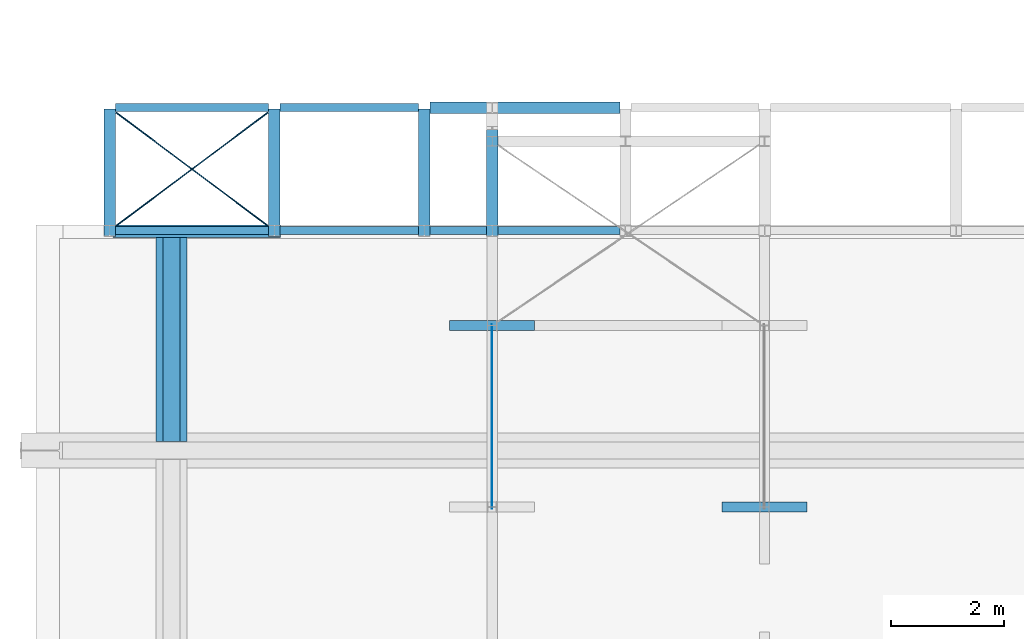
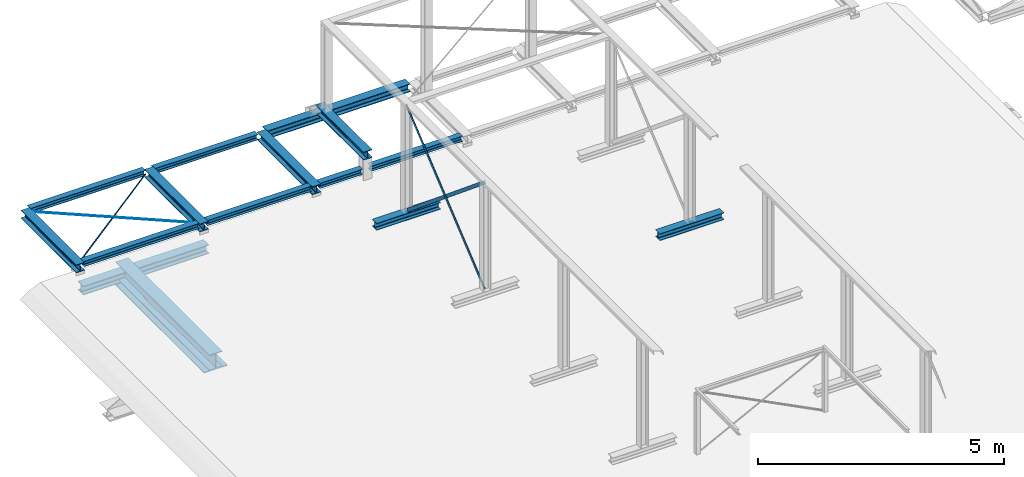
# One storey, part 19 of 50: 19 beams.
"""IFC2X3 building model written with IfcOpenShell, lengths in millimetres."""

from ifc_helpers import new_model, entity, si_unit, converted_unit, derived_unit, direction, frame, frame_2d, origin, origin_2d_with_axis, place, context, subcontext, project, spatial, polyline, circle_curve, parameter, trimmed, segment, composite_curve, rectangle, circle, i_section, outline, extrude, clip, halfspace, source, transform, mapped, material, material_list, type_object, type_shapes, element, save


model = new_model("IFC2X3")

# Units and contexts
model_context = context("Model", 3, precision=0.01, world=origin(), true_north=direction((6.12303176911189e-17, 1.0)))
body_context = subcontext(model_context, "Body", "Model", "MODEL_VIEW")
ifc_project = project(units=[si_unit("LENGTHUNIT", "METRE", prefix="MILLI"), si_unit("AREAUNIT", "SQUARE_METRE", prefix="MILLI"), si_unit("VOLUMEUNIT", "CUBIC_METRE"), converted_unit("PLANEANGLEUNIT", "DEGREE", entity("IfcRatioMeasure", 0.0174532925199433), si_unit("PLANEANGLEUNIT", "RADIAN"), dimensions=[0, 0, 0, 0, 0, 0, 0]), si_unit("MASSUNIT", "GRAM", prefix="KILO"), derived_unit("MASSDENSITYUNIT", [(si_unit("MASSUNIT", "GRAM", prefix="KILO"), 1), (si_unit("LENGTHUNIT", "METRE"), -3)]), derived_unit("MOMENTOFINERTIAUNIT", [(si_unit("LENGTHUNIT", "METRE"), 4)]), si_unit("TIMEUNIT", "SECOND"), si_unit("FREQUENCYUNIT", "HERTZ"), si_unit("THERMODYNAMICTEMPERATUREUNIT", "DEGREE_CELSIUS"), derived_unit("THERMALTRANSMITTANCEUNIT", [(si_unit("MASSUNIT", "GRAM", prefix="KILO"), 1), (si_unit("THERMODYNAMICTEMPERATUREUNIT", "KELVIN"), -1), (si_unit("TIMEUNIT", "SECOND"), -3)]), derived_unit("VOLUMETRICFLOWRATEUNIT", [(si_unit("LENGTHUNIT", "METRE"), 3), (si_unit("TIMEUNIT", "SECOND"), -1)]), si_unit("ELECTRICCURRENTUNIT", "AMPERE"), si_unit("ELECTRICVOLTAGEUNIT", "VOLT"), si_unit("POWERUNIT", "WATT"), si_unit("FORCEUNIT", "NEWTON", prefix="KILO"), si_unit("ILLUMINANCEUNIT", "LUX"), si_unit("LUMINOUSFLUXUNIT", "LUMEN"), si_unit("LUMINOUSINTENSITYUNIT", "CANDELA"), derived_unit("USERDEFINED", [(si_unit("MASSUNIT", "GRAM", prefix="KILO"), -1), (si_unit("LENGTHUNIT", "METRE"), -2), (si_unit("TIMEUNIT", "SECOND"), 3), (si_unit("LUMINOUSFLUXUNIT", "LUMEN"), 1)]), derived_unit("LINEARVELOCITYUNIT", [(si_unit("LENGTHUNIT", "METRE"), 1), (si_unit("TIMEUNIT", "SECOND"), -1)]), si_unit("PRESSUREUNIT", "PASCAL"), derived_unit("USERDEFINED", [(si_unit("LENGTHUNIT", "METRE"), -2), (si_unit("MASSUNIT", "GRAM", prefix="KILO"), 1), (si_unit("TIMEUNIT", "SECOND"), -2)]), derived_unit("LINEARFORCEUNIT", [(si_unit("MASSUNIT", "GRAM", prefix="KILO"), 1), (si_unit("LENGTHUNIT", "METRE"), 1), (si_unit("TIMEUNIT", "SECOND"), -2), (si_unit("LENGTHUNIT", "METRE"), -1)]), derived_unit("PLANARFORCEUNIT", [(si_unit("MASSUNIT", "GRAM", prefix="KILO"), 1), (si_unit("LENGTHUNIT", "METRE"), 1), (si_unit("TIMEUNIT", "SECOND"), -2), (si_unit("LENGTHUNIT", "METRE"), -2)])], contexts=[model_context])

# Site, building, storey
site_placement = place(None, origin())
site = spatial("IfcSite", under=ifc_project, at=site_placement, Name="Theater aan de Parade", CompositionType="ELEMENT")
building_placement = place(site_placement, origin())
building = spatial("IfcBuilding", under=site, at=building_placement, Name="Theater aan de Parade", CompositionType="ELEMENT")
storey_placement = place(building_placement, frame((0.0, 0.0, 15820.0)))
storey = spatial("IfcBuildingStorey", under=building, at=storey_placement, Name="04 vierde verdieping", CompositionType="ELEMENT", Elevation=15820.0)

# Beams
ifc_material_1 = material(Name="00_PBT_MAT_staal_S355")
beam_type_1 = type_object("IfcBeamType", Name="28_PBT_SF_staal_H-profiel:S355_HE180A", PredefinedType="NOTDEFINED")
beam_1_placement = place(storey_placement, frame((27803.8569986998, 36598.8337248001, 0.0)))
element("IfcBeam", 1, at=beam_1_placement, inside=storey, type_object=beam_type_1, material=ifc_material_1, Name="28_PBT_SF_staal_H-profiel:S355_HE180A", ObjectType="28_PBT_SF_staal_H-profiel:S355_HE180A", context=body_context, shape_type="SweptSolid", body=[
    extrude(i_section(OverallWidth=180.000000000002, OverallDepth=171.0, WebThickness=6.00000000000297, FlangeThickness=9.49999999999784, FilletRadius=15.0000000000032, at=frame_2d((-2.16715534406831e-12, -6.49436060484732e-12), x_axis=(0.0, 1.0))), frame((0.0, 0.0, 184.499999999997), z_axis=(1.0, 0.0, 0.0), x_axis=(0.0, 0.0, -1.0)), (0.0, 0.0, 1.0), 1500.00000000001),
])
beam_2_placement = place(storey_placement, frame((24503.8569986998, 39798.8337248, 0.0), z_axis=(0.0, 0.0, 1.0), x_axis=(-1.0, 0.0, 0.0)))
element("IfcBeam", 2, at=beam_2_placement, inside=storey, type_object=beam_type_1, material=ifc_material_1, Name="28_PBT_SF_staal_H-profiel:S355_HE180A", ObjectType="28_PBT_SF_staal_H-profiel:S355_HE180A", context=body_context, shape_type="SweptSolid", body=[
    extrude(outline(composite_curve([segment(polyline([(76.0, -90.0), (85.5000000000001, -90.0)]), True, "CONTINUOUS"), segment(polyline([(85.5000000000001, -90.0), (85.5000000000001, 90.0)]), True, "CONTINUOUS"), segment(polyline([(85.5000000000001, 90.0), (76.0, 90.0)]), True, "CONTINUOUS"), segment(polyline([(76.0, 90.0), (76.0, 18.0)]), True, "CONTINUOUS"), segment(trimmed(circle_curve(frame_2d((61.0, 18.0), x_axis=(1.0, 0.0)), 14.9999999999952), [parameter(269.999999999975)], [parameter(0.0)], True, "PARAMETER"), False, "CONTINUOUS"), segment(polyline([(61.0, 3.0), (-61.0, 3.0)]), True, "CONTINUOUS"), segment(trimmed(circle_curve(frame_2d((-61.0, 18.0), x_axis=(0.0, -1.0)), 14.9999999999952), [parameter(269.999999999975)], [parameter(0.0)], True, "PARAMETER"), False, "CONTINUOUS"), segment(polyline([(-76.0, 18.0), (-76.0, 90.0)]), True, "CONTINUOUS"), segment(polyline([(-76.0, 90.0), (-85.5000000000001, 90.0)]), True, "CONTINUOUS"), segment(polyline([(-85.5000000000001, 90.0), (-85.5000000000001, -90.0)]), True, "CONTINUOUS"), segment(polyline([(-85.4999999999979, -90.0), (-76.0, -90.0)]), True, "CONTINUOUS"), segment(polyline([(-76.0, -90.0), (-76.0, -18.0)]), True, "CONTINUOUS"), segment(trimmed(circle_curve(frame_2d((-61.0, -18.0), x_axis=(-1.0, 0.0)), 14.9999999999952), [parameter(269.999999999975)], [parameter(0.0)], True, "PARAMETER"), False, "CONTINUOUS"), segment(polyline([(-61.0, -3.0), (61.0, -3.0)]), True, "CONTINUOUS"), segment(trimmed(circle_curve(frame_2d((61.0, -18.0), x_axis=(0.0, 1.0)), 14.9999999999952), [parameter(269.999999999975)], [parameter(0.0)], True, "PARAMETER"), False, "CONTINUOUS"), segment(polyline([(76.0, -18.0), (76.0, -90.0)]), True, "CONTINUOUS")], self_intersect=False)), frame((0.0, 0.0, 184.499999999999), z_axis=(1.0, 0.0, 0.0), x_axis=(0.0, 0.0, -1.0)), (0.0, 0.0, 1.0), 1500.00000000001),
])
beam_type_2 = type_object("IfcBeamType", Name="28_PBT_SF_staal_H-profiel:S355_HE140A", PredefinedType="NOTDEFINED")
beam_3_placement = place(storey_placement, frame((17109.527749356, 43641.6918178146, 0.0)))
element("IfcBeam", 3, at=beam_3_placement, inside=storey, type_object=beam_type_2, material=ifc_material_1, Name="28_PBT_SF_staal_H-profiel:S355_HE140A", ObjectType="28_PBT_SF_staal_H-profiel:S355_HE140A", context=body_context, shape_type="SweptSolid", body=[
    extrude(outline(composite_curve([segment(polyline([(58.0, -70.0), (66.5000000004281, -70.0)]), True, "CONTINUOUS"), segment(polyline([(66.5000000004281, -70.0), (66.499999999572, 70.0)]), True, "CONTINUOUS"), segment(polyline([(66.499999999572, 70.0), (58.0, 70.0)]), True, "CONTINUOUS"), segment(polyline([(58.0, 70.0), (58.0, 14.750000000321)]), True, "CONTINUOUS"), segment(trimmed(circle_curve(frame_2d((46.0, 14.750000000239), x_axis=(1.0, 0.0)), 11.9999999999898), [parameter(269.999999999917)], [parameter(0.0)], True, "PARAMETER"), False, "CONTINUOUS"), segment(polyline([(46.0, 2.75000000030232), (-46.0, 2.74999999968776)]), True, "CONTINUOUS"), segment(trimmed(circle_curve(frame_2d((-46.0, 14.7499999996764), x_axis=(0.0, -1.0)), 11.9999999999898), [parameter(269.999999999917)], [parameter(0.0)], True, "PARAMETER"), False, "CONTINUOUS"), segment(polyline([(-58.0, 14.7499999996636), (-58.0, 70.0)]), True, "CONTINUOUS"), segment(polyline([(-58.0, 70.0), (-66.5000000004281, 70.0)]), True, "CONTINUOUS"), segment(polyline([(-66.5000000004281, 70.0), (-66.499999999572, -70.0)]), True, "CONTINUOUS"), segment(polyline([(-66.4999999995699, -70.0), (-58.0, -70.0)]), True, "CONTINUOUS"), segment(polyline([(-58.0, -70.0), (-58.0, -14.7500000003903)]), True, "CONTINUOUS"), segment(trimmed(circle_curve(frame_2d((-46.0, -14.7500000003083), x_axis=(-1.0, 0.0)), 11.9999999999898), [parameter(269.999999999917)], [parameter(0.0)], True, "PARAMETER"), False, "CONTINUOUS"), segment(polyline([(-46.0, -2.75000000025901), (46.0, -2.7499999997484)]), True, "CONTINUOUS"), segment(trimmed(circle_curve(frame_2d((46.0, -14.7499999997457), x_axis=(0.0, 1.0)), 11.9999999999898), [parameter(269.999999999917)], [parameter(0.0)], True, "PARAMETER"), False, "CONTINUOUS"), segment(polyline([(58.0, -14.749999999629), (58.0, -70.0)]), True, "CONTINUOUS")], self_intersect=False)), frame((0.0, 0.0, 295.5), z_axis=(1.0, 0.0, 0.0), x_axis=(0.0, 0.0, -1.0)), (0.0, 0.0, 1.0), 2702.24451945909),
])
beam_4_placement = place(storey_placement, frame((22453.8569986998, 43641.6918178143, 0.0), z_axis=(0.0, 0.0, 1.0), x_axis=(-1.0, 0.0, 0.0)))
element("IfcBeam", 4, at=beam_4_placement, inside=storey, type_object=beam_type_2, material=ifc_material_1, Name="28_PBT_SF_staal_H-profiel:S355_HE140A", ObjectType="28_PBT_SF_staal_H-profiel:S355_HE140A", context=body_context, shape_type="SweptSolid", body=[
    extrude(i_section(OverallWidth=139.99999999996, OverallDepth=133.0, WebThickness=5.50000000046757, FlangeThickness=8.49999999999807, FilletRadius=11.9999999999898, at=frame_2d((-2.16715534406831e-12, 8.66151594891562e-12), x_axis=(0.0, 1.0))), frame((0.0, 0.0, 263.499999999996), z_axis=(1.0, 0.0, 0.0), x_axis=(0.0, 0.0, -1.0)), (0.0, 0.0, 1.0), 2442.08472988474),
])
beam_5_placement = place(storey_placement, frame((17109.527749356, 41473.3083270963, 0.0)))
element("IfcBeam", 5, at=beam_5_placement, inside=storey, type_object=beam_type_2, material=ifc_material_1, Name="28_PBT_SF_staal_H-profiel:S355_HE140A", ObjectType="28_PBT_SF_staal_H-profiel:S355_HE140A", context=body_context, shape_type="SweptSolid", body=[
    extrude(outline(composite_curve([segment(polyline([(58.0, -70.0), (66.5000000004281, -70.0)]), True, "CONTINUOUS"), segment(polyline([(66.5000000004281, -70.0), (66.499999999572, 70.0)]), True, "CONTINUOUS"), segment(polyline([(66.499999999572, 70.0), (58.0, 70.0)]), True, "CONTINUOUS"), segment(polyline([(58.0, 70.0), (58.0, 14.750000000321)]), True, "CONTINUOUS"), segment(trimmed(circle_curve(frame_2d((46.0, 14.750000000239), x_axis=(1.0, 0.0)), 11.9999999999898), [parameter(269.999999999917)], [parameter(0.0)], True, "PARAMETER"), False, "CONTINUOUS"), segment(polyline([(46.0, 2.75000000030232), (-46.0, 2.74999999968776)]), True, "CONTINUOUS"), segment(trimmed(circle_curve(frame_2d((-46.0, 14.7499999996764), x_axis=(0.0, -1.0)), 11.9999999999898), [parameter(269.999999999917)], [parameter(0.0)], True, "PARAMETER"), False, "CONTINUOUS"), segment(polyline([(-58.0, 14.7499999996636), (-58.0, 70.0)]), True, "CONTINUOUS"), segment(polyline([(-58.0, 70.0), (-66.5000000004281, 70.0)]), True, "CONTINUOUS"), segment(polyline([(-66.5000000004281, 70.0), (-66.499999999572, -70.0)]), True, "CONTINUOUS"), segment(polyline([(-66.4999999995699, -70.0), (-58.0, -70.0)]), True, "CONTINUOUS"), segment(polyline([(-58.0, -70.0), (-58.0, -14.7500000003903)]), True, "CONTINUOUS"), segment(trimmed(circle_curve(frame_2d((-46.0, -14.7500000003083), x_axis=(-1.0, 0.0)), 11.9999999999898), [parameter(269.999999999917)], [parameter(0.0)], True, "PARAMETER"), False, "CONTINUOUS"), segment(polyline([(-46.0, -2.75000000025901), (46.0, -2.7499999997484)]), True, "CONTINUOUS"), segment(trimmed(circle_curve(frame_2d((46.0, -14.7499999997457), x_axis=(0.0, 1.0)), 11.9999999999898), [parameter(269.999999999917)], [parameter(0.0)], True, "PARAMETER"), False, "CONTINUOUS"), segment(polyline([(58.0, -14.749999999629), (58.0, -70.0)]), True, "CONTINUOUS")], self_intersect=False)), frame((0.0, 0.0, 295.5), z_axis=(1.0, 0.0, 0.0), x_axis=(0.0, 0.0, -1.0)), (0.0, 0.0, 1.0), 2702.24451945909),
])
beam_6_placement = place(storey_placement, frame((23653.8569986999, 41473.3083270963, 0.0), z_axis=(0.0, 0.0, 1.0), x_axis=(-1.0, 0.0, 0.0)))
element("IfcBeam", 6, at=beam_6_placement, inside=storey, type_object=beam_type_2, material=ifc_material_1, Name="28_PBT_SF_staal_H-profiel:S355_HE140A", ObjectType="28_PBT_SF_staal_H-profiel:S355_HE140A", context=body_context, shape_type="SweptSolid", body=[
    extrude(i_section(OverallWidth=139.999999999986, OverallDepth=133.0, WebThickness=5.50000000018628, FlangeThickness=8.49999999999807, FilletRadius=11.9999999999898, at=frame_2d((0.0, 8.66862137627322e-12), x_axis=(0.0, 1.0))), frame((0.0, 0.0, 295.5), z_axis=(1.0, 0.0, 0.0), x_axis=(0.0, 0.0, -1.0)), (0.0, 0.0, 1.0), 999.999999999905),
])
beam_7_placement = place(storey_placement, frame((23853.8569986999, 41473.3083270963, 0.0)))
element("IfcBeam", 7, at=beam_7_placement, inside=storey, type_object=beam_type_2, material=ifc_material_1, Name="28_PBT_SF_staal_H-profiel:S355_HE140A", ObjectType="28_PBT_SF_staal_H-profiel:S355_HE140A", context=body_context, shape_type="SweptSolid", body=[
    extrude(outline(composite_curve([segment(polyline([(58.0, -70.0), (66.5000000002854, -70.0)]), True, "CONTINUOUS"), segment(polyline([(66.5000000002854, -70.0), (66.4999999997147, 70.0)]), True, "CONTINUOUS"), segment(polyline([(66.4999999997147, 70.0), (58.0, 70.0)]), True, "CONTINUOUS"), segment(polyline([(58.0, 70.0), (58.0, 14.7500000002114)]), True, "CONTINUOUS"), segment(trimmed(circle_curve(frame_2d((46.0, 14.7500000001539), x_axis=(1.0, 0.0)), 11.9999999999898), [parameter(269.999999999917)], [parameter(0.0)], True, "PARAMETER"), False, "CONTINUOUS"), segment(polyline([(46.0, 2.7500000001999), (-46.0, 2.74999999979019)]), True, "CONTINUOUS"), segment(trimmed(circle_curve(frame_2d((-46.0, 14.7499999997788), x_axis=(0.0, -1.0)), 11.9999999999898), [parameter(269.999999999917)], [parameter(0.0)], True, "PARAMETER"), False, "CONTINUOUS"), segment(polyline([(-58.0, 14.7499999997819), (-58.0, 70.0)]), True, "CONTINUOUS"), segment(polyline([(-58.0, 70.0), (-66.5000000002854, 70.0)]), True, "CONTINUOUS"), segment(polyline([(-66.5000000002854, 70.0), (-66.4999999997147, -70.0)]), True, "CONTINUOUS"), segment(polyline([(-66.4999999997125, -70.0), (-58.0, -70.0)]), True, "CONTINUOUS"), segment(polyline([(-58.0, -70.0), (-58.0, -14.7500000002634)]), True, "CONTINUOUS"), segment(trimmed(circle_curve(frame_2d((-46.0, -14.7500000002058), x_axis=(-1.0, 0.0)), 11.9999999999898), [parameter(269.999999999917)], [parameter(0.0)], True, "PARAMETER"), False, "CONTINUOUS"), segment(polyline([(-46.0, -2.75000000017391), (46.0, -2.7499999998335)]), True, "CONTINUOUS"), segment(trimmed(circle_curve(frame_2d((46.0, -14.7499999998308), x_axis=(0.0, 1.0)), 11.9999999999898), [parameter(269.999999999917)], [parameter(0.0)], True, "PARAMETER"), False, "CONTINUOUS"), segment(polyline([(58.0, -14.7499999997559), (58.0, -70.0)]), True, "CONTINUOUS")], self_intersect=False)), frame((0.0, 0.0, 295.5), z_axis=(1.0, 0.0, 0.0), x_axis=(0.0, 0.0, -1.0)), (0.0, 0.0, 1.0), 2150.00000380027),
])
beam_8_placement = place(storey_placement, frame((22553.8569986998, 41473.3083270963, 0.0), z_axis=(0.0, 0.0, 1.0), x_axis=(-1.0, 0.0, 0.0)))
element("IfcBeam", 8, at=beam_8_placement, inside=storey, type_object=beam_type_2, material=ifc_material_1, Name="28_PBT_SF_staal_H-profiel:S355_HE140A", ObjectType="28_PBT_SF_staal_H-profiel:S355_HE140A", context=body_context, shape_type="SweptSolid", body=[
    extrude(i_section(OverallWidth=139.99999999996, OverallDepth=133.0, WebThickness=5.50000000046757, FlangeThickness=8.49999999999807, FilletRadius=11.9999999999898, at=frame_2d((0.0, 0.0), x_axis=(0.0, 1.0))), frame((100.0, 0.0, 295.5), z_axis=(1.0, 0.0, 0.0), x_axis=(0.0, 0.0, -1.0)), (0.0, 0.0, 1.0), 2442.08472988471),
])
beam_type_3 = type_object("IfcBeamType", Name="28_PBT_SF_staal_H-profiel:S355_HE200B", PredefinedType="NOTDEFINED")
beam_9_placement = place(storey_placement, frame((17009.5277493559, 43617.3619328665, 0.0), z_axis=(0.0, 0.0, 1.0), x_axis=(0.0, -1.0, 0.0)))
element("IfcBeam", 9, at=beam_9_placement, inside=storey, type_object=beam_type_3, material=ifc_material_1, Name="28_PBT_SF_staal_H-profiel:S355_HE200B", ObjectType="28_PBT_SF_staal_H-profiel:S355_HE200B", context=body_context, shape_type="SweptSolid", body=[
    extrude(i_section(OverallWidth=200.0, OverallDepth=200.0, WebThickness=9.00000000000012, FlangeThickness=14.9999999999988, FilletRadius=18.0000000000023, at=frame_2d((-1.08713038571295e-12, -3.24718030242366e-12), x_axis=(0.0, 1.0))), frame((0.0, 0.0, 262.0), z_axis=(1.0, 0.0, 0.0), x_axis=(0.0, 0.0, -1.0)), (0.0, 0.0, 1.0), 2244.0536057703),
])
beam_10_placement = place(storey_placement, frame((22653.8569986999, 43641.6918178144, 0.0)))
element("IfcBeam", 10, at=beam_10_placement, inside=storey, type_object=beam_type_3, material=ifc_material_1, Name="28_PBT_SF_staal_H-profiel:S355_HE200B", ObjectType="28_PBT_SF_staal_H-profiel:S355_HE200B", context=body_context, shape_type="SweptSolid", body=[
    extrude(outline(composite_curve([segment(polyline([(85.0, -100.0), (100.0, -100.0)]), True, "CONTINUOUS"), segment(polyline([(100.0, -100.0), (100.0, 100.0)]), True, "CONTINUOUS"), segment(polyline([(100.0, 100.0), (85.0, 100.0)]), True, "CONTINUOUS"), segment(polyline([(85.0, 100.0), (85.0, 22.5000000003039)]), True, "CONTINUOUS"), segment(trimmed(circle_curve(frame_2d((67.0, 22.5000000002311), x_axis=(1.0, 0.0)), 17.9999999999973), [parameter(269.999999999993)], [parameter(0.0)], True, "PARAMETER"), False, "CONTINUOUS"), segment(polyline([(67.0, 4.50000000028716), (-67.0, 4.4999999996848)]), True, "CONTINUOUS"), segment(trimmed(circle_curve(frame_2d((-67.0, 22.4999999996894), x_axis=(0.0, -1.0)), 17.9999999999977), [parameter(269.999999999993)], [parameter(0.0)], True, "PARAMETER"), False, "CONTINUOUS"), segment(polyline([(-85.0, 22.4999999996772), (-85.0, 100.0)]), True, "CONTINUOUS"), segment(polyline([(-85.0, 100.0), (-100.0, 100.0)]), True, "CONTINUOUS"), segment(polyline([(-100.0, 100.0), (-100.0, -100.0)]), True, "CONTINUOUS"), segment(polyline([(-100.0, -100.0), (-85.0, -100.0)]), True, "CONTINUOUS"), segment(polyline([(-85.0, -100.0), (-85.0, -22.5000000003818)]), True, "CONTINUOUS"), segment(trimmed(circle_curve(frame_2d((-67.0, -22.5000000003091), x_axis=(-1.0, 0.0)), 17.9999999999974), [parameter(269.999999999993)], [parameter(0.0)], True, "PARAMETER"), False, "CONTINUOUS"), segment(polyline([(-67.0, -4.50000000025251), (67.0, -4.49999999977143)]), True, "CONTINUOUS"), segment(trimmed(circle_curve(frame_2d((67.0, -22.4999999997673), x_axis=(0.0, 1.0)), 17.9999999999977), [parameter(269.999999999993)], [parameter(0.0)], True, "PARAMETER"), False, "CONTINUOUS"), segment(polyline([(85.0, -22.4999999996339), (85.0, -100.0)]), True, "CONTINUOUS")], self_intersect=False)), frame((0.0, 0.0, 262.0), z_axis=(1.0, 0.0, 0.0), x_axis=(0.0, 0.0, -1.0)), (0.0, 0.0, 1.0), 3350.00000380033),
])
beam_11_placement = place(storey_placement, frame((23753.8569986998, 43741.6918178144, 0.0), z_axis=(0.0, 0.0, 1.0), x_axis=(0.0, -1.0, 0.0)))
element("IfcBeam", 11, at=beam_11_placement, inside=storey, type_object=beam_type_3, material=ifc_material_1, Name="28_PBT_SF_staal_H-profiel:S355_HE200B", ObjectType="28_PBT_SF_staal_H-profiel:S355_HE200B", context=body_context, shape_type="Clipping", body=[
    clip(extrude(i_section(OverallWidth=200.000000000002, OverallDepth=200.000000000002, WebThickness=9.00000000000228, FlangeThickness=15.0000000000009, FilletRadius=18.0000000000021, at=frame_2d((-2.16715534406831e-12, 2.16715534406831e-12), x_axis=(0.0, 1.0))), frame((427.233954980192, 0.0, 700.0), z_axis=(1.0, 0.0, 0.0), x_axis=(0.0, 0.0, -1.0)), (0.0, 0.0, 1.0), 1941.1495357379), halfspace(frame((427.233954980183, -452.921503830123, 800.0), z_axis=(-0.949020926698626, 0.0, -0.315213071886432), x_axis=(-0.315213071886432, 0.0, 0.949020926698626)), False)),
])
for number, where, z_axis, x_axis in (
    (12, (19911.7722688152, 43617.3619328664, 0.0), (0.0, 0.0, 1.0), (0.0, -1.0, 0.0)),
    (13, (22553.8569986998, 43617.3619328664, 0.0), (0.0, 0.0, 1.0), (0.0, -1.0, 0.0)),
):
    element("IfcBeam", number, at=place(storey_placement, frame(where, z_axis=z_axis, x_axis=x_axis)), inside=storey, type_object=beam_type_3, material=ifc_material_1, Name="28_PBT_SF_staal_H-profiel:S355_HE200B", ObjectType="28_PBT_SF_staal_H-profiel:S355_HE200B", context=body_context, shape_type="SweptSolid", body=[
        extrude(i_section(OverallWidth=200.000000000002, OverallDepth=200.0, WebThickness=9.00000000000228, FlangeThickness=14.9999999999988, FilletRadius=18.0000000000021, at=frame_2d((-1.08713038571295e-12, 2.16715534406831e-12), x_axis=(0.0, 1.0))), frame((0.0, 0.0, 262.0), z_axis=(1.0, 0.0, 0.0), x_axis=(0.0, 0.0, -1.0)), (0.0, 0.0, 1.0), 2244.0536057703),
    ])
ifc_material_2 = material(Name="00_PBT_MAT_Lucht")
ifc_material_list = material_list([ifc_material_2, ifc_material_1])
beam_type_4 = type_object("IfcBeamType", Name="28_PBT_SF_staal_H-profiel_met_onderplaat (void):S355_HE400A + onderplaat d=20", PredefinedType="BEAM", material=ifc_material_list)
shared_shape = source(origin(), body_context, "Body", "SweptSolid", [
    extrude(rectangle(XDim=20.0, YDim=550.0, at=origin_2d_with_axis()), frame((-1831.79046280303, 0.0, -205.0), z_axis=(1.0, 0.0, 0.0), x_axis=(0.0, 0.0, -1.0)), (0.0, 0.0, 1.0), 3821.33092560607),
    extrude(i_section(OverallWidth=300.0, OverallDepth=390.0, WebThickness=11.0, FlangeThickness=18.9999999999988, FilletRadius=27.0, at=frame_2d((-3.97903932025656e-13, 0.0), x_axis=(0.0, 1.0))), frame((-1831.79046280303, 0.0, 0.0), z_axis=(1.0, 0.0, 0.0), x_axis=(0.0, 0.0, -1.0)), (0.0, 0.0, 1.0), 3821.33092560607),
])
type_shapes(beam_type_4, [shared_shape])
beam_12_placement = place(storey_placement, frame((18098.3570025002, 39583.7678642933, -235.0), z_axis=(0.0, 0.0, 1.0), x_axis=(0.0, 1.0, 0.0)))
element("IfcBeam", 14, at=beam_12_placement, inside=storey, type_object=beam_type_4, material=ifc_material_1, Name="28_PBT_SF_staal_H-profiel_met_onderplaat (void):S355_HE400A + onderplaat d=20", ObjectType="28_PBT_SF_staal_H-profiel_met_onderplaat (void):S355_HE400A + onderplaat d=20", context=body_context, shape_type="MappedRepresentation", body=[
    mapped(shared_shape, transform((0.0, 0.0, 0.0), scale=1.0)),
])
ifc_material_3 = material(Name="00_PBT_MAT_staal")
beam_type_5 = type_object("IfcBeamType", Name="28_PBT_SF_staal_strip:strip 8x80", PredefinedType="NOTDEFINED")
beam_13_placement = place(storey_placement, frame((23753.8569986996, 39751.5505676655, 311.560633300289), z_axis=(0.0, 0.637236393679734, 0.770668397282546), x_axis=(0.0, -0.770668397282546, 0.637236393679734)))
element("IfcBeam", 15, at=beam_13_placement, inside=storey, type_object=beam_type_5, material=ifc_material_3, Name="28_PBT_SF_staal_strip:strip 8x80", ObjectType="28_PBT_SF_staal_strip:strip 8x80", context=body_context, shape_type="SweptSolid", body=[
    extrude(rectangle(XDim=79.999999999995, YDim=7.99999999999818, at=frame_2d((-5.26512167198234e-12, 0.0), x_axis=(1.0, 0.0))), frame((0.0, 0.0, 0.0), z_axis=(1.0, 0.0, 0.0), x_axis=(0.0, 0.0, -1.0)), (0.0, 0.0, 1.0), 4094.20373673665),
])
beam_14_placement = place(storey_placement, frame((23745.8569987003, 36601.7915468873, 270.050919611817), z_axis=(0.0, -0.637904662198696, 0.770115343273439), x_axis=(0.0, 0.770115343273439, 0.637904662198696)))
element("IfcBeam", 16, at=beam_14_placement, inside=storey, type_object=beam_type_5, material=ifc_material_3, Name="28_PBT_SF_staal_strip:strip 8x80", ObjectType="28_PBT_SF_staal_strip:strip 8x80", context=body_context, shape_type="SweptSolid", body=[
    extrude(rectangle(XDim=79.9999999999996, YDim=8.00000000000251, at=frame_2d((-8.34887714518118e-13, 0.0), x_axis=(1.0, 0.0))), frame((0.0, 0.0, 0.0), z_axis=(1.0, 0.0, 0.0), x_axis=(0.0, 0.0, -1.0)), (0.0, 0.0, 1.0), 4150.19576124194),
])
beam_type_6 = type_object("IfcBeamType", Name="28_PBT_SF_staal_massief_rond:S355_D20", PredefinedType="NOTDEFINED")
beam_15_placement = place(storey_placement, frame((17009.5277493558, 41473.3083270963, 0.0), z_axis=(0.0, 0.0, 1.0), x_axis=(0.801098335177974, 0.598532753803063, 0.0)))
element("IfcBeam", 17, at=beam_15_placement, inside=storey, type_object=beam_type_6, material=ifc_material_1, Name="28_PBT_SF_staal_massief_rond:S355_D20", ObjectType="28_PBT_SF_staal_massief_rond:S355_D20", context=body_context, shape_type="SweptSolid", body=[
    extrude(circle(Radius=10.0000000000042, at=frame_2d((-1.87616195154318e-24, -4.33146851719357e-12), x_axis=(1.0, 0.0))), frame((145.000022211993, 0.0, 290.0), z_axis=(1.0, 0.0, 0.0), x_axis=(0.0, 1.0, 0.0)), (0.0, 0.0, 1.0), 3332.83175039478),
])
beam_16_placement = place(storey_placement, frame((19911.7722688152, 41473.3083270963, 0.0), z_axis=(0.0, 0.0, 1.0), x_axis=(-0.801098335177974, 0.598532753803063, 0.0)))
element("IfcBeam", 18, at=beam_16_placement, inside=storey, type_object=beam_type_6, material=ifc_material_1, Name="28_PBT_SF_staal_massief_rond:S355_D20", ObjectType="28_PBT_SF_staal_massief_rond:S355_D20", context=body_context, shape_type="SweptSolid", body=[
    extrude(circle(Radius=10.0000000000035, at=frame_2d((-1.87616195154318e-24, -4.33146851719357e-12), x_axis=(1.0, 0.0))), frame((145.000022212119, 0.0, 290.0), z_axis=(1.0, 0.0, 0.0), x_axis=(0.0, 1.0, 0.0)), (0.0, 0.0, 1.0), 3332.83175039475),
])
beam_type_7 = type_object("IfcBeamType", Name="28_PBT_SF_staal_H-profiel (void):S355_HE220B", PredefinedType="NOTDEFINED")
beam_17_placement = place(storey_placement, frame((17069.9953004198, 41463.308327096, 0.0)))
element("IfcBeam", 19, at=beam_17_placement, inside=storey, type_object=beam_type_7, material=ifc_material_1, Name="28_PBT_SF_staal_H-profiel (void):S355_HE220B", ObjectType="28_PBT_SF_staal_H-profiel (void):S355_HE220B", context=body_context, shape_type="SweptSolid", body=[
    extrude(outline(composite_curve([segment(polyline([(94.0, -110.0), (110.0, -110.0)]), True, "CONTINUOUS"), segment(polyline([(110.0, -110.0), (110.0, 110.0)]), True, "CONTINUOUS"), segment(polyline([(110.0, 110.0), (94.0, 110.0)]), True, "CONTINUOUS"), segment(polyline([(94.0, 110.0), (94.0, 22.7500000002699)]), True, "CONTINUOUS"), segment(trimmed(circle_curve(frame_2d((76.0, 22.7500000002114), x_axis=(1.0, 0.0)), 17.9999999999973), [parameter(269.999999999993)], [parameter(0.0)], True, "PARAMETER"), False, "CONTINUOUS"), segment(polyline([(76.0, 4.75000000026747), (-76.0, 4.74999999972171)]), True, "CONTINUOUS"), segment(trimmed(circle_curve(frame_2d((-76.0, 22.7499999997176), x_axis=(0.0, -1.0)), 17.9999999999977), [parameter(269.999999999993)], [parameter(0.0)], True, "PARAMETER"), False, "CONTINUOUS"), segment(polyline([(-94.0, 22.7499999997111), (-94.0, 110.0)]), True, "CONTINUOUS"), segment(polyline([(-94.0, 110.0), (-110.0, 110.0)]), True, "CONTINUOUS"), segment(polyline([(-110.0, 110.0), (-110.0, -110.0)]), True, "CONTINUOUS"), segment(polyline([(-110.0, -110.0), (-94.0, -110.0)]), True, "CONTINUOUS"), segment(polyline([(-94.0, -110.0), (-94.0, -22.7500000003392)]), True, "CONTINUOUS"), segment(trimmed(circle_curve(frame_2d((-76.0, -22.7500000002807), x_axis=(-1.0, 0.0)), 17.9999999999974), [parameter(269.999999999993)], [parameter(0.0)], True, "PARAMETER"), False, "CONTINUOUS"), segment(polyline([(-76.0, -4.75000000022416), (76.0, -4.74999999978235)]), True, "CONTINUOUS"), segment(trimmed(circle_curve(frame_2d((76.0, -22.7499999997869), x_axis=(0.0, 1.0)), 17.9999999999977), [parameter(269.999999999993)], [parameter(0.0)], True, "PARAMETER"), False, "CONTINUOUS"), segment(polyline([(94.0, -22.7499999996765), (94.0, -110.0)]), True, "CONTINUOUS")], self_intersect=False)), frame((0.0, 0.0, -320.0), z_axis=(1.0, 0.0, 0.0), x_axis=(0.0, 0.0, -1.0)), (0.0, 0.0, 1.0), 2950.0),
])

save(model, "model.ifc")
